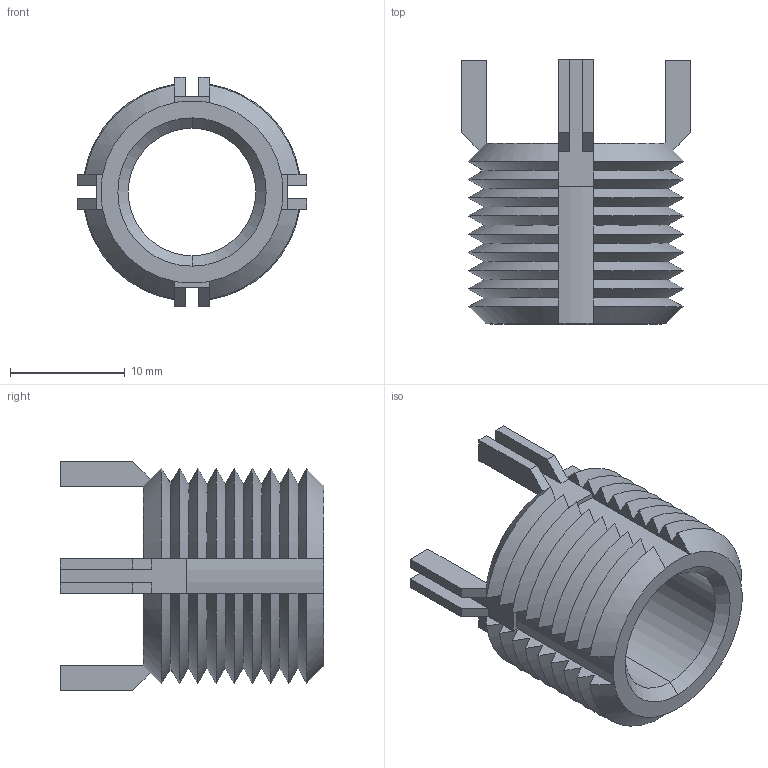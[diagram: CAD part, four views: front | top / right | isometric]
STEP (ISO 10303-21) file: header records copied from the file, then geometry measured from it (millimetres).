
FILE_DESCRIPTION (( 'STEP AP203' ), '1' );
FILE_NAME ('22024.W5370.step', '2020-01-04T21:57:13', ( '' ), ( '' ), 'SwSTEP 2.0', 'SolidWorks 2017', '' );
FILE_SCHEMA (( 'CONFIG_CONTROL_DESIGN' ));
Length unit declared in the file: millimetre
Products named in the file (1): 22024.W5370
Bounding box: 19.99 x 22.99 x 19.99 mm (x, y, z)
Volume: 2275.2 mm3; surface area: 2716.4 mm2
Topology: 1 solids, 1 shells, 156 faces, 418 edges, 264 vertices
Faces by surface type: cone 76, plane 74, cylinder 6
Entity records: 5051 total; most frequent: CARTESIAN_POINT 1343, ORIENTED_EDGE 836, DIRECTION 656, EDGE_CURVE 418, VERTEX_POINT 264, AXIS2_PLACEMENT_3D 249, B_SPLINE_CURVE_WITH_KNOTS 168, EDGE_LOOP 158
